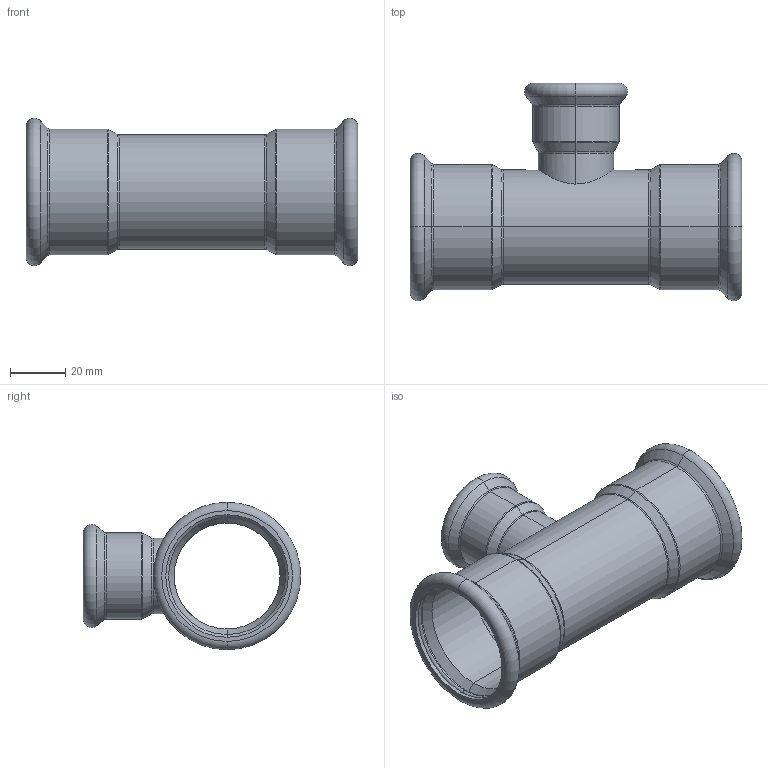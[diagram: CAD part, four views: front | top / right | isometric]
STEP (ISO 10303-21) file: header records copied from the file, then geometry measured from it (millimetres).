
FILE_DESCRIPTION (( 'STEP AP214' ), '1' );
FILE_NAME ('T42280R.STEP', '2025-08-18T00:40:57', ( '' ), ( '' ), 'SwSTEP 2.0', 'SolidWorks 2020', '' );
FILE_SCHEMA (( 'AUTOMOTIVE_DESIGN' ));
Length unit declared in the file: millimetre
Products named in the file (1): T42280R
Bounding box: 120 x 78.65 x 53.29 mm (x, y, z)
Volume: 31470.8 mm3; surface area: 43364.4 mm2
Topology: 4 solids, 4 shells, 98 faces, 198 edges, 106 vertices
Faces by surface type: torus 42, cylinder 26, cone 24, plane 6
Entity records: 3896 total; most frequent: CARTESIAN_POINT 606, DIRECTION 536, ORIENTED_EDGE 396, AXIS2_PLACEMENT_3D 243, EDGE_CURVE 198, CIRCLE 144, EDGE_LOOP 106, VERTEX_POINT 106
